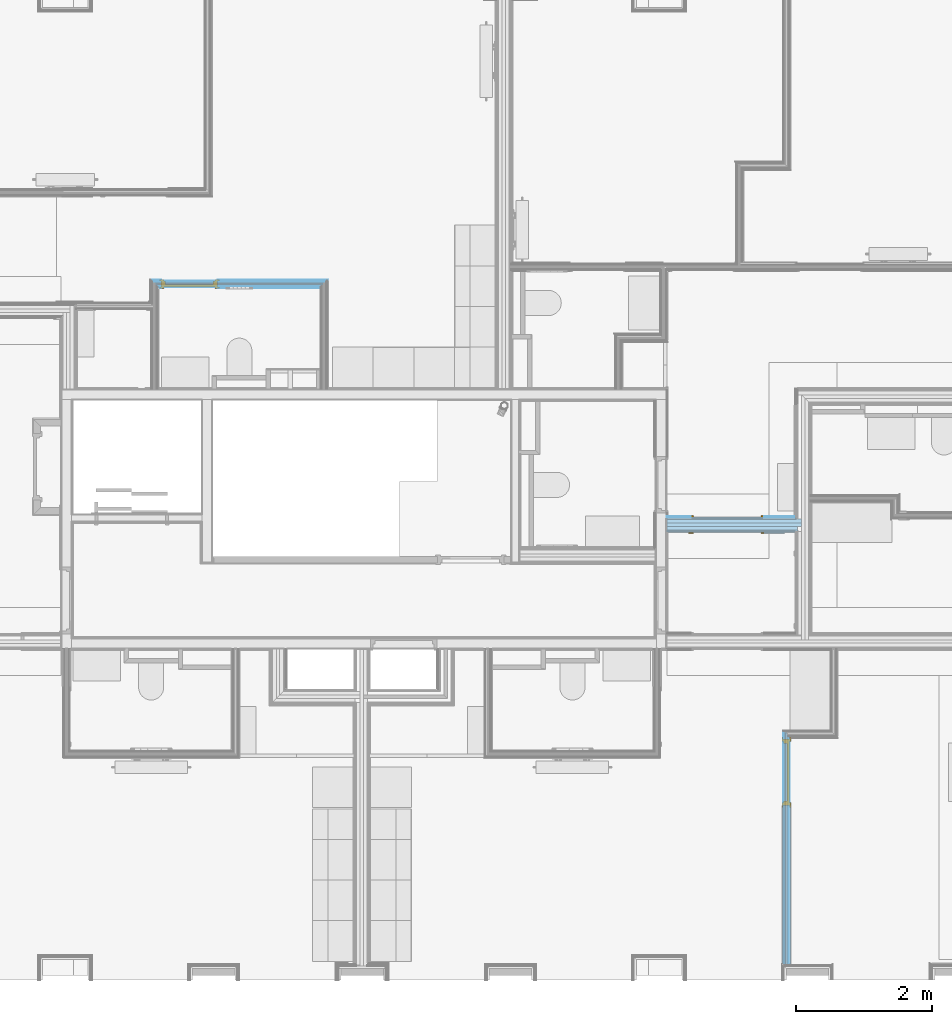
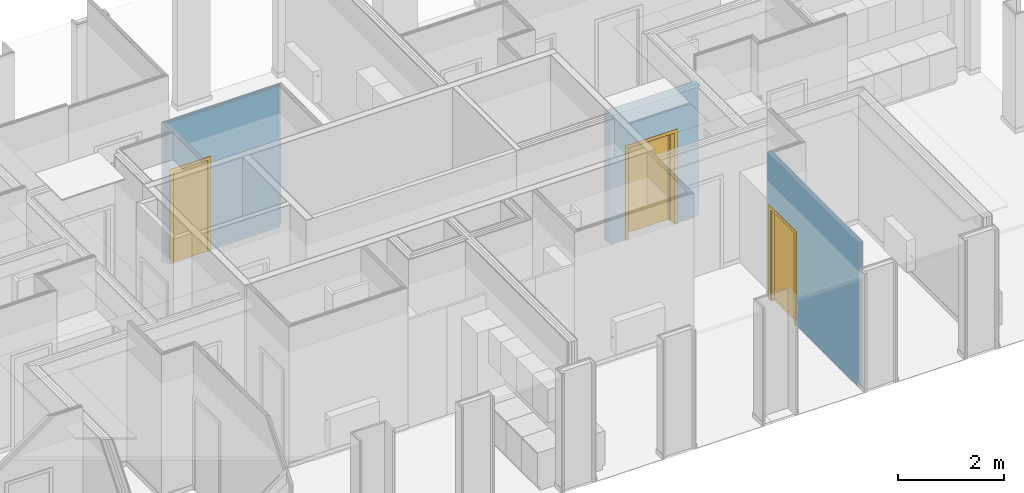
# One storey, part 50 of 64: 3 doors, 4 openings, 3 elements without a shape of their own, plus 23 elements that do not belong to this part.
"""IFC2X3 building model written with IfcOpenShell, lengths in metres."""

from ifc_helpers import new_model, entity, si_unit, converted_unit, derived_unit, money_unit, direction, frame, frame_2d, origin_with_axes, place, context, subcontext, project, spatial, polyline, rectangle, outline, extrude, faceted_brep, material, type_object, element, fill, aggregate, save


model = new_model("IFC2X3")

# Units and contexts
model_context = context("Model", 3, precision=1e-05, world=origin_with_axes(), true_north=direction((0.0, 1.0)))
body_context = subcontext(model_context, "Body", "Model", "MODEL_VIEW", scale=1.0)
ifc_project = project(units=[si_unit("LENGTHUNIT", "METRE"), si_unit("AREAUNIT", "SQUARE_METRE"), si_unit("VOLUMEUNIT", "CUBIC_METRE"), si_unit("ABSORBEDDOSEUNIT", "GRAY"), si_unit("AMOUNTOFSUBSTANCEUNIT", "MOLE"), si_unit("DOSEEQUIVALENTUNIT", "SIEVERT"), si_unit("ELECTRICCAPACITANCEUNIT", "FARAD"), si_unit("ELECTRICCHARGEUNIT", "COULOMB"), si_unit("ELECTRICCONDUCTANCEUNIT", "SIEMENS"), si_unit("ELECTRICCURRENTUNIT", "AMPERE"), si_unit("ELECTRICRESISTANCEUNIT", "OHM"), si_unit("ELECTRICVOLTAGEUNIT", "VOLT"), si_unit("ENERGYUNIT", "JOULE"), si_unit("FORCEUNIT", "NEWTON"), si_unit("FREQUENCYUNIT", "HERTZ"), si_unit("ILLUMINANCEUNIT", "LUX"), si_unit("INDUCTANCEUNIT", "HENRY"), si_unit("LUMINOUSFLUXUNIT", "LUMEN"), si_unit("LUMINOUSINTENSITYUNIT", "CANDELA"), si_unit("MAGNETICFLUXDENSITYUNIT", "TESLA"), si_unit("MAGNETICFLUXUNIT", "WEBER"), si_unit("MASSUNIT", "GRAM"), converted_unit("PLANEANGLEUNIT", "degree", entity("IfcReal", 0.0174532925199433), si_unit("PLANEANGLEUNIT", "RADIAN"), dimensions=[0, 0, 0, 0, 0, 0, 0]), si_unit("POWERUNIT", "WATT"), si_unit("PRESSUREUNIT", "PASCAL"), si_unit("RADIOACTIVITYUNIT", "BECQUEREL"), si_unit("SOLIDANGLEUNIT", "STERADIAN"), si_unit("THERMODYNAMICTEMPERATUREUNIT", "KELVIN"), si_unit("TIMEUNIT", "SECOND"), derived_unit("ACCELERATIONUNIT", [(si_unit("LENGTHUNIT", "METRE"), 1), (si_unit("TIMEUNIT", "SECOND"), -2)]), derived_unit("ANGULARVELOCITYUNIT", [(converted_unit("PLANEANGLEUNIT", "degree", entity("IfcReal", 0.0174532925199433), si_unit("PLANEANGLEUNIT", "RADIAN"), dimensions=[0, 0, 0, 0, 0, 0, 0]), 1), (si_unit("TIMEUNIT", "SECOND"), -1)]), derived_unit("CURVATUREUNIT", [(converted_unit("PLANEANGLEUNIT", "degree", entity("IfcReal", 0.0174532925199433), si_unit("PLANEANGLEUNIT", "RADIAN"), dimensions=[0, 0, 0, 0, 0, 0, 0]), 1), (si_unit("LENGTHUNIT", "METRE"), -1)]), derived_unit("DYNAMICVISCOSITYUNIT", [(si_unit("PRESSUREUNIT", "PASCAL"), 1), (si_unit("TIMEUNIT", "SECOND"), 1)]), derived_unit("HEATFLUXDENSITYUNIT", [(si_unit("POWERUNIT", "WATT"), 1), (si_unit("LENGTHUNIT", "METRE"), -2)]), derived_unit("HEATINGVALUEUNIT", [(si_unit("ENERGYUNIT", "JOULE"), 1), (si_unit("MASSUNIT", "GRAM"), -1)]), derived_unit("INTEGERCOUNTRATEUNIT", [(si_unit("TIMEUNIT", "SECOND"), -1)]), derived_unit("IONCONCENTRATIONUNIT", [(si_unit("MASSUNIT", "GRAM"), 1), (si_unit("VOLUMEUNIT", "CUBIC_METRE"), -1)]), derived_unit("ISOTHERMALMOISTURECAPACITYUNIT", [(si_unit("VOLUMEUNIT", "CUBIC_METRE"), 1), (si_unit("MASSUNIT", "GRAM"), -1)]), derived_unit("KINEMATICVISCOSITYUNIT", [(si_unit("AREAUNIT", "SQUARE_METRE"), 1), (si_unit("TIMEUNIT", "SECOND"), -1)]), derived_unit("LINEARFORCEUNIT", [(si_unit("FORCEUNIT", "NEWTON"), 1), (si_unit("LENGTHUNIT", "METRE"), -1)]), derived_unit("LINEARMOMENTUNIT", [(si_unit("FORCEUNIT", "NEWTON"), 1), (si_unit("LENGTHUNIT", "METRE"), -1)]), derived_unit("LINEARSTIFFNESSUNIT", [(si_unit("FORCEUNIT", "NEWTON"), 1), (si_unit("LENGTHUNIT", "METRE"), -1)]), derived_unit("LINEARVELOCITYUNIT", [(si_unit("LENGTHUNIT", "METRE"), 1), (si_unit("TIMEUNIT", "SECOND"), -1)]), derived_unit("LUMINOUSINTENSITYDISTRIBUTIONUNIT", [(si_unit("LUMINOUSINTENSITYUNIT", "CANDELA"), 1), (si_unit("LUMINOUSFLUXUNIT", "LUMEN"), -1)]), derived_unit("MASSDENSITYUNIT", [(si_unit("MASSUNIT", "GRAM"), 1), (si_unit("VOLUMEUNIT", "CUBIC_METRE"), -1)]), derived_unit("MASSFLOWRATEUNIT", [(si_unit("MASSUNIT", "GRAM"), 1), (si_unit("TIMEUNIT", "SECOND"), -1)]), derived_unit("MASSPERLENGTHUNIT", [(si_unit("MASSUNIT", "GRAM"), 1), (si_unit("LENGTHUNIT", "METRE"), -1)]), derived_unit("MODULUSOFELASTICITYUNIT", [(si_unit("FORCEUNIT", "NEWTON"), 1), (si_unit("AREAUNIT", "SQUARE_METRE"), -1)]), derived_unit("MODULUSOFLINEARSUBGRADEREACTIONUNIT", [(si_unit("FORCEUNIT", "NEWTON"), 1), (si_unit("LENGTHUNIT", "METRE"), -2)]), derived_unit("MODULUSOFROTATIONALSUBGRADEREACTIONUNIT", [(si_unit("FORCEUNIT", "NEWTON"), 1), (si_unit("LENGTHUNIT", "METRE"), 1)]), derived_unit("MODULUSOFSUBGRADEREACTIONUNIT", [(si_unit("FORCEUNIT", "NEWTON"), 1), (si_unit("VOLUMEUNIT", "CUBIC_METRE"), -1)]), derived_unit("MOISTUREDIFFUSIVITYUNIT", [(si_unit("VOLUMEUNIT", "CUBIC_METRE"), 1), (si_unit("TIMEUNIT", "SECOND"), -1)]), derived_unit("MOLECULARWEIGHTUNIT", [(si_unit("MASSUNIT", "GRAM"), 1), (si_unit("AMOUNTOFSUBSTANCEUNIT", "MOLE"), -1)]), derived_unit("PLANARFORCEUNIT", [(si_unit("FORCEUNIT", "NEWTON"), 1), (si_unit("LENGTHUNIT", "METRE"), -2)]), derived_unit("ROTATIONALFREQUENCYUNIT", [(si_unit("TIMEUNIT", "SECOND"), -1)]), derived_unit("ROTATIONALMASSUNIT", [(si_unit("MASSUNIT", "GRAM"), 1), (si_unit("LENGTHUNIT", "METRE"), 2)]), derived_unit("ROTATIONALSTIFFNESSUNIT", [(si_unit("FORCEUNIT", "NEWTON"), 1), (si_unit("LENGTHUNIT", "METRE"), 1), (converted_unit("PLANEANGLEUNIT", "degree", entity("IfcReal", 0.0174532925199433), si_unit("PLANEANGLEUNIT", "RADIAN"), dimensions=[0, 0, 0, 0, 0, 0, 0]), -1)]), derived_unit("SECTIONAREAINTEGRALUNIT", [(si_unit("LENGTHUNIT", "METRE"), 5)]), derived_unit("SECTIONMODULUSUNIT", [(si_unit("LENGTHUNIT", "METRE"), 3)]), derived_unit("SHEARMODULUSUNIT", [(si_unit("FORCEUNIT", "NEWTON"), 1), (si_unit("AREAUNIT", "SQUARE_METRE"), -1)]), derived_unit("SOUNDPOWERUNIT", [(si_unit("ENERGYUNIT", "JOULE"), 1), (si_unit("TIMEUNIT", "SECOND"), -1)]), derived_unit("SPECIFICHEATCAPACITYUNIT", [(si_unit("FORCEUNIT", "NEWTON"), 1), (si_unit("MASSUNIT", "GRAM"), -1), (si_unit("THERMODYNAMICTEMPERATUREUNIT", "KELVIN"), -1)]), derived_unit("TEMPERATUREGRADIENTUNIT", [(si_unit("THERMODYNAMICTEMPERATUREUNIT", "KELVIN"), 1), (si_unit("LENGTHUNIT", "METRE"), -1)]), derived_unit("THERMALADMITTANCEUNIT", [(si_unit("POWERUNIT", "WATT"), 1), (si_unit("AREAUNIT", "SQUARE_METRE"), -1), (si_unit("THERMODYNAMICTEMPERATUREUNIT", "KELVIN"), -1)]), derived_unit("THERMALCONDUCTANCEUNIT", [(si_unit("POWERUNIT", "WATT"), 1), (si_unit("LENGTHUNIT", "METRE"), -1), (si_unit("THERMODYNAMICTEMPERATUREUNIT", "KELVIN"), -1)]), derived_unit("THERMALEXPANSIONCOEFFICIENTUNIT", [(si_unit("THERMODYNAMICTEMPERATUREUNIT", "KELVIN"), -1)]), derived_unit("THERMALRESISTANCEUNIT", [(si_unit("AREAUNIT", "SQUARE_METRE"), 1), (si_unit("POWERUNIT", "WATT"), -1)]), derived_unit("THERMALTRANSMITTANCEUNIT", [(si_unit("POWERUNIT", "WATT"), 1), (si_unit("AREAUNIT", "SQUARE_METRE"), -1), (si_unit("THERMODYNAMICTEMPERATUREUNIT", "KELVIN"), -1)]), derived_unit("TORQUEUNIT", [(si_unit("FORCEUNIT", "NEWTON"), 1), (si_unit("LENGTHUNIT", "METRE"), 1)]), derived_unit("VAPORPERMEABILITYUNIT", [(si_unit("MASSUNIT", "GRAM"), 1), (si_unit("TIMEUNIT", "SECOND"), -1)]), derived_unit("VOLUMETRICFLOWRATEUNIT", [(si_unit("VOLUMEUNIT", "CUBIC_METRE"), 1), (si_unit("TIMEUNIT", "SECOND"), -1)]), derived_unit("WARPINGCONSTANTUNIT", [(si_unit("LENGTHUNIT", "METRE"), 6)]), derived_unit("WARPINGMOMENTUNIT", [(si_unit("FORCEUNIT", "NEWTON"), 1), (si_unit("LENGTHUNIT", "METRE"), 2)]), money_unit("GBP")], contexts=[model_context])

# Site, building, storey, space
site_placement = place(None, origin_with_axes())
site = spatial("IfcSite", under=ifc_project, at=site_placement, Name="Site", CompositionType="ELEMENT")
building_placement = place(site_placement, origin_with_axes())
building = spatial("IfcBuilding", under=site, at=building_placement, Name="Building01", CompositionType="ELEMENT")
storey_placement = place(building_placement, frame((0.0, 0.0, 8.64), z_axis=(0.0, 0.0, 1.0), x_axis=(1.0, 0.0, 0.0)))
storey = spatial("IfcBuildingStorey", under=building, at=storey_placement, Name="2F", CompositionType="ELEMENT", Elevation=8.64)
space_1_placement = place(storey_placement, frame((22.624794, 10.57, 0.017975), z_axis=(0.0, 0.0, 1.0), x_axis=(-1.0, 0.0, 0.0)))
space_1 = spatial("IfcSpace", under=storey, at=space_1_placement, Name="corridor", CompositionType="ELEMENT", InteriorOrExteriorSpace="NOTDEFINED")

# Door
ifc_material_1 = material(Name="A_BSUK_Doors")
door_style_1 = type_object("IfcDoorStyle", Name="A-Doors-SingleFlush", ConstructionType="USERDEFINED", OperationType="SINGLE_SWING_RIGHT", ParameterTakesPrecedence=False, Sizeable=False)
wall_3_placement = place(storey_placement, frame((18.0, 6.793, 0.0), z_axis=(0.0, 0.0, 1.0), x_axis=(1.0, 0.0, 0.0)))
opening_4_placement = place(wall_3_placement, frame((0.353, -0.103, -0.03), z_axis=(0.0, 0.0, 1.0), x_axis=(1.0, 0.0, 0.0)))
door_1_placement = place(opening_4_placement, frame((0.039, 0.24, 0.03), z_axis=(0.0, 0.0, 1.0), x_axis=(1.0, 0.0, 0.0)))
door_1 = element("IfcDoor", 1, at=door_1_placement, inside=space_1, type_object=door_style_1, material=ifc_material_1, Name="2.09", ObjectType="A-Doors-SingleFlush", OverallHeight=2.172, OverallWidth=1.08700000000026, context=body_context, shape_type="Brep", body=[
    faceted_brep([(1.0, -0.244, 0.0), (1.069, -0.244, 0.0), (1.069, -0.244, 2.169), (-0.069, -0.244, 2.169), (-0.069, -0.244, 0.0), (0.0, -0.244, 0.0), (0.0, -0.244, 2.1), (1.0, -0.244, 2.1), (-0.069, -0.225, 0.0), (-0.069, -0.225, 2.169), (1.069, -0.225, 2.169), (1.069, -0.225, 0.0), (1.0, 0.019, 0.0), (1.069, 0.019, 0.0), (1.069, 0.0, 0.0), (1.042, 0.0, 0.0), (1.042, -0.225, 0.0), (1.0, 0.019, 2.1), (0.0, 0.019, 2.1), (0.0, 0.019, 0.0), (-0.069, 0.019, 0.0), (-0.069, 0.019, 2.169), (1.069, 0.019, 2.169), (1.069, 0.0, 2.169), (1.042, -0.225, 2.142), (1.042, 0.0, 2.142), (-0.042, -0.225, 2.142), (-0.042, 0.0, 2.142), (-0.042, -0.225, 0.0), (-0.042, 0.0, 0.0), (-0.069, 0.0, 2.169), (-0.069, 0.0, 0.0)], [[[0, 1, 2, 3, 4, 5, 6, 7]], [[8, 4, 3, 9]], [[10, 2, 1, 11]], [[9, 3, 2, 10]], [[12, 13, 14, 15, 16, 11, 1, 0]], [[7, 17, 12, 0]], [[6, 18, 17, 7]], [[18, 19, 20, 21, 22, 13, 12, 17]], [[5, 19, 18, 6]], [[13, 22, 23, 14]], [[24, 16, 15, 25]], [[26, 24, 25, 27]], [[11, 16, 24, 26, 28, 8, 9, 10]], [[27, 29, 28, 26]], [[25, 15, 14, 23, 30, 31, 29, 27]], [[5, 4, 8, 28, 29, 31, 20, 19]], [[30, 21, 20, 31]], [[23, 22, 21, 30]]]),
    faceted_brep([(0.0, -0.09, 2.1), (0.0, -0.04, 2.1), (0.0, -0.04, 0.0), (0.0, -0.09, 0.0), (0.975, -0.09, 0.0), (1.0, -0.09, 0.0), (1.0, -0.09, 2.1), (0.025, -0.09, 0.0), (0.025, -0.09, 2.075), (0.975, -0.09, 2.075), (0.975, -0.04, 0.0), (1.0, -0.04, 0.0), (1.0, -0.04, 2.1), (0.025, -0.04, 2.075), (0.025, -0.04, 0.0), (0.975, -0.04, 2.075)], [[[0, 1, 2, 3]], [[4, 5, 6, 0, 3, 7, 8, 9]], [[10, 11, 5, 4]], [[6, 12, 1, 0]], [[5, 11, 12, 6]], [[13, 14, 2, 1, 12, 11, 10, 15]], [[7, 14, 13, 8]], [[7, 3, 2, 14]], [[9, 15, 10, 4]], [[8, 13, 15, 9]]]),
    faceted_brep([(1.0, -0.04, 0.0), (1.0, 0.0, 0.0), (1.0, 0.0, 2.1), (1.0, -0.04, 2.1), (0.0, -0.04, 2.1), (0.0, 0.0, 2.1), (0.0, 0.0, 0.0), (0.0, -0.04, 0.0)], [[[0, 1, 2, 3]], [[4, 5, 6, 7]], [[7, 6, 1, 0]], [[3, 4, 7, 0]], [[3, 2, 5, 4]], [[1, 6, 5, 2]]]),
])

# Space
space_2_placement = place(storey_placement, frame((14.85, 4.98, 0.017975), z_axis=(0.0, 0.0, 1.0), x_axis=(0.0, -1.0, 0.0)))
space_2 = spatial("IfcSpace", under=storey, at=space_2_placement, Name="11", CompositionType="ELEMENT", InteriorOrExteriorSpace="NOTDEFINED")

# Door
door_style_2 = type_object("IfcDoorStyle", Name="A-Doors-SingleFlush", ConstructionType="USERDEFINED", OperationType="SINGLE_SWING_LEFT", ParameterTakesPrecedence=False, Sizeable=False)
wall_1_placement = place(storey_placement, frame((19.75, 3.745, 0.0), z_axis=(0.0, 0.0, 1.0), x_axis=(0.0, -1.0, 0.0)))
opening_2_placement = place(wall_1_placement, frame((0.099, -0.05, 0.0), z_axis=(0.0, 0.0, 1.0), x_axis=(1.0, 0.0, 0.0)))
door_2_placement = place(opening_2_placement, frame((0.03, 0.11, 0.0), z_axis=(0.0, 0.0, 1.0), x_axis=(1.0, 0.0, 0.0)))
door_2 = element("IfcDoor", 2, at=door_2_placement, inside=space_2, type_object=door_style_2, material=ifc_material_1, Name="2.14", ObjectType="A-Doors-SingleFlush", OverallHeight=2.15700000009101, OverallWidth=1.56178056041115, context=body_context, shape_type="Brep", body=[
    faceted_brep([(0.0, -0.114, 2.1), (0.9, -0.114, 2.1), (0.9, -0.114, 0.0), (0.969, -0.114, 0.0), (0.969, -0.114, 2.169), (-0.069, -0.114, 2.169), (-0.069, -0.114, 0.0), (0.0, -0.114, 0.0), (0.969, -0.095, 2.169), (0.969, -0.095, 0.0), (-0.069, -0.095, 0.0), (-0.069, -0.095, 2.169), (-0.042, -0.095, 0.0), (-0.042, 0.0, 0.0), (-0.069, 0.0, 0.0), (-0.069, 0.019, 0.0), (0.0, 0.019, 0.0), (0.0, 0.019, 2.1), (0.9, 0.019, 2.1), (-0.069, 0.019, 2.169), (0.969, 0.019, 2.169), (0.969, 0.019, 0.0), (0.9, 0.019, 0.0), (-0.069, 0.0, 2.169), (-0.042, 0.0, 2.142), (-0.042, -0.095, 2.142), (0.942, 0.0, 2.142), (0.942, -0.095, 2.142), (0.942, -0.095, 0.0), (0.942, 0.0, 0.0), (0.969, 0.0, 0.0), (0.969, 0.0, 2.169)], [[[0, 1, 2, 3, 4, 5, 6, 7]], [[8, 4, 3, 9]], [[10, 6, 5, 11]], [[11, 5, 4, 8]], [[7, 6, 10, 12, 13, 14, 15, 16]], [[7, 16, 17, 0]], [[0, 17, 18, 1]], [[17, 16, 15, 19, 20, 21, 22, 18]], [[1, 18, 22, 2]], [[14, 23, 19, 15]], [[24, 13, 12, 25]], [[26, 24, 25, 27]], [[11, 8, 9, 28, 27, 25, 12, 10]], [[27, 28, 29, 26]], [[26, 29, 30, 31, 23, 14, 13, 24]], [[22, 21, 30, 29, 28, 9, 3, 2]], [[30, 21, 20, 31]], [[31, 20, 19, 23]]]),
    faceted_brep([(0.9, -0.09, 0.0), (0.9, -0.04, 0.0), (0.9, -0.04, 2.1), (0.9, -0.09, 2.1), (0.025, -0.09, 2.075), (0.875, -0.09, 2.075), (0.875, -0.09, 0.0), (0.0, -0.09, 2.1), (0.0, -0.09, 0.0), (0.025, -0.09, 0.0), (0.0, -0.04, 0.0), (0.025, -0.04, 0.0), (0.0, -0.04, 2.1), (0.025, -0.04, 2.075), (0.875, -0.04, 0.0), (0.875, -0.04, 2.075)], [[[0, 1, 2, 3]], [[4, 5, 6, 0, 3, 7, 8, 9]], [[9, 8, 10, 11]], [[3, 2, 12, 7]], [[7, 12, 10, 8]], [[13, 11, 10, 12, 2, 1, 14, 15]], [[5, 15, 14, 6]], [[14, 1, 0, 6]], [[9, 11, 13, 4]], [[4, 13, 15, 5]]]),
    faceted_brep([(0.0, -0.04, 2.1), (0.0, 0.0, 2.1), (0.0, 0.0, 0.0), (0.0, -0.04, 0.0), (0.9, -0.04, 0.0), (0.9, 0.0, 0.0), (0.9, 0.0, 2.1), (0.9, -0.04, 2.1)], [[[0, 1, 2, 3]], [[4, 5, 6, 7]], [[3, 2, 5, 4]], [[3, 4, 7, 0]], [[7, 6, 1, 0]], [[1, 6, 5, 2]]]),
])

# Space
space_3_placement = place(storey_placement, frame((7.289669, 14.8, 0.017975), z_axis=(0.0, 0.0, 1.0), x_axis=(0.0, -1.0, 0.0)))
space_3 = spatial("IfcSpace", under=storey, at=space_3_placement, Name="15", CompositionType="ELEMENT", InteriorOrExteriorSpace="NOTDEFINED")

# Door
door_style_3 = type_object("IfcDoorStyle", Name="A-Doors-SingleFlush", ConstructionType="USERDEFINED", OperationType="SINGLE_SWING_RIGHT", ParameterTakesPrecedence=False, Sizeable=False)
wall_2_placement = place(storey_placement, frame((10.453871, 10.355, 0.0), z_axis=(0.0, 0.0, 1.0), x_axis=(1.0, 0.0, 0.0)))
opening_3_placement = place(wall_2_placement, frame((0.086065, -0.05, 0.0), z_axis=(0.0, 0.0, 1.0), x_axis=(1.0, 0.0, 0.0)))
door_3_placement = place(opening_3_placement, frame((0.792, 0.015, 0.0), z_axis=(0.0, 0.0, 1.0), x_axis=(-1.0, 0.0, 0.0)))
door_3 = element("IfcDoor", 3, at=door_3_placement, inside=space_3, type_object=door_style_3, material=ifc_material_1, Name="2.26", ObjectType="A-Doors-SingleFlush", OverallHeight=2.142, OverallWidth=0.834, context=body_context, shape_type="Brep", body=[
    faceted_brep([(0.75, -0.114, 0.0), (0.819, -0.114, 0.0), (0.819, -0.114, 2.169), (-0.069, -0.114, 2.169), (-0.069, -0.114, 0.0), (0.0, -0.114, 0.0), (0.0, -0.114, 2.1), (0.75, -0.114, 2.1), (-0.069, -0.095, 0.0), (-0.069, -0.095, 2.169), (0.819, -0.095, 2.169), (0.819, -0.095, 0.0), (0.75, 0.019, 0.0), (0.819, 0.019, 0.0), (0.819, 0.0, 0.0), (0.792, 0.0, 0.0), (0.792, -0.095, 0.0), (0.75, 0.019, 2.1), (0.0, 0.019, 2.1), (0.0, 0.019, 0.0), (-0.069, 0.019, 0.0), (-0.069, 0.019, 2.169), (0.819, 0.019, 2.169), (0.819, 0.0, 2.169), (0.792, -0.095, 2.142), (0.792, 0.0, 2.142), (-0.042, -0.095, 2.142), (-0.042, 0.0, 2.142), (-0.042, -0.095, 0.0), (-0.042, 0.0, 0.0), (-0.069, 0.0, 2.169), (-0.069, 0.0, 0.0)], [[[0, 1, 2, 3, 4, 5, 6, 7]], [[8, 4, 3, 9]], [[10, 2, 1, 11]], [[9, 3, 2, 10]], [[12, 13, 14, 15, 16, 11, 1, 0]], [[7, 17, 12, 0]], [[6, 18, 17, 7]], [[18, 19, 20, 21, 22, 13, 12, 17]], [[5, 19, 18, 6]], [[13, 22, 23, 14]], [[24, 16, 15, 25]], [[26, 24, 25, 27]], [[11, 16, 24, 26, 28, 8, 9, 10]], [[27, 29, 28, 26]], [[25, 15, 14, 23, 30, 31, 29, 27]], [[5, 4, 8, 28, 29, 31, 20, 19]], [[30, 21, 20, 31]], [[23, 22, 21, 30]]]),
    faceted_brep([(0.0, -0.09, 2.1), (0.0, -0.04, 2.1), (0.0, -0.04, 0.0), (0.0, -0.09, 0.0), (0.725, -0.09, 0.0), (0.75, -0.09, 0.0), (0.75, -0.09, 2.1), (0.025, -0.09, 0.0), (0.025, -0.09, 2.075), (0.725, -0.09, 2.075), (0.725, -0.04, 0.0), (0.75, -0.04, 0.0), (0.75, -0.04, 2.1), (0.025, -0.04, 2.075), (0.025, -0.04, 0.0), (0.725, -0.04, 2.075)], [[[0, 1, 2, 3]], [[4, 5, 6, 0, 3, 7, 8, 9]], [[10, 11, 5, 4]], [[6, 12, 1, 0]], [[5, 11, 12, 6]], [[13, 14, 2, 1, 12, 11, 10, 15]], [[7, 14, 13, 8]], [[7, 3, 2, 14]], [[9, 15, 10, 4]], [[8, 13, 15, 9]]]),
    faceted_brep([(0.75, -0.04, 0.0), (0.75, 0.0, 0.0), (0.75, 0.0, 2.1), (0.75, -0.04, 2.1), (0.0, -0.04, 2.1), (0.0, 0.0, 2.1), (0.0, 0.0, 0.0), (0.0, -0.04, 0.0)], [[[0, 1, 2, 3]], [[4, 5, 6, 7]], [[7, 6, 1, 0]], [[3, 4, 7, 0]], [[3, 2, 5, 4]], [[1, 6, 5, 2]]]),
])

# Wall, openings
wall_type_1 = type_object("IfcWallType", Name="SHE_A-Walls_Type05a_Partition_95mm_tall", PredefinedType="NOTDEFINED")
wall_1 = element("IfcWall", 4, at=wall_1_placement, inside=storey, type_object=wall_type_1, Name="5A", ObjectType="SHE_A-Walls_Type05a_Partition_95mm_tall")
opening_1_placement = place(wall_1_placement, frame((0.087, -0.035, 0.0), z_axis=(0.0, 0.0, 1.0), x_axis=(1.0, 0.0, 0.0)))
element("IfcOpeningElement", 5, at=opening_1_placement, cuts=wall_1, Name="Opening", ObjectType="Recess", context=body_context, shape_type="SweptSolid", body=[
    extrude(rectangle(XDim=2.142, YDim=0.984, at=frame_2d((-0.492, 1.071), x_axis=(0.0, 1.0))), frame((0.0, 0.0, 0.0), z_axis=(0.0, 1.0, 0.0), x_axis=(-1.0, 0.0, 0.0)), (0.0, 0.0, 1.0), 0.035),
])
opening_2 = element("IfcOpeningElement", 6, at=opening_2_placement, cuts=wall_1, Name="Opening", ObjectType="Opening", context=body_context, shape_type="SweptSolid", body=[
    extrude(rectangle(XDim=0.9, YDim=2.127, at=frame_2d((-0.45, 1.0635), x_axis=(-1.0, 0.0))), frame((0.0, 0.0, 0.0), z_axis=(0.0, 1.0, 0.0), x_axis=(-1.0, 0.0, 0.0)), (0.0, 0.0, 1.0), 0.125),
    extrude(rectangle(XDim=0.9, YDim=2.142, at=frame_2d((-0.45, 1.056), x_axis=(-1.0, 0.0))), frame((0.0, 0.015, 0.0), z_axis=(0.0, 1.0, 0.0), x_axis=(-1.0, 0.0, 0.0)), (0.0, 0.0, 1.0), 0.012),
    extrude(rectangle(XDim=2.142, YDim=0.984, at=frame_2d((-0.48, 1.071), x_axis=(0.0, -1.0))), frame((0.0, 0.0, 0.0), z_axis=(0.0, 1.0, 0.0), x_axis=(-1.0, 0.0, 0.0)), (0.0, 0.0, 1.0), 0.015),
    extrude(rectangle(XDim=0.9, YDim=2.142, at=frame_2d((-0.45, 1.056), x_axis=(-1.0, 0.0))), frame((0.0, 0.027, 0.0), z_axis=(0.0, 1.0, 0.0), x_axis=(-1.0, 0.0, 0.0)), (0.0, 0.0, 1.0), 0.023),
    extrude(outline(polyline([(0.012, 2.127), (0.012, 2.142), (-0.972, 2.142), (-0.972, 0.0), (-0.494219, 0.0), (-0.494219, -0.015), (0.589781, -0.015), (0.589781, 2.127), (0.012, 2.127)])), frame((0.0, 0.05, 0.0), z_axis=(0.0, 1.0, 0.0), x_axis=(-1.0, 0.0, 0.0)), (0.0, 0.0, 1.0), 0.025),
    extrude(outline(polyline([(0.012, 2.127), (0.012, 2.142), (-0.972, 2.142), (-0.972, 0.0), (-0.494219, 0.0), (-0.494219, -0.015), (0.589781, -0.015), (0.589781, 2.127), (0.012, 2.127)])), frame((0.0, 0.075, 0.0), z_axis=(0.0, 1.0, 0.0), x_axis=(-1.0, 0.0, 0.0)), (0.0, 0.0, 1.0), 0.023),
    extrude(outline(polyline([(-0.972, 2.142), (-0.972, 0.0), (-0.9, 0.0), (-0.9, -0.015), (0.0, -0.015), (0.0, 0.0), (0.589781, 0.0), (0.589781, 2.142), (-0.972, 2.142)])), frame((0.0, 0.098, 0.0), z_axis=(0.0, 1.0, 0.0), x_axis=(-1.0, 0.0, 0.0)), (0.0, 0.0, 1.0), 0.012),
    extrude(rectangle(XDim=2.142, YDim=0.984, at=frame_2d((-0.48, 1.071), x_axis=(0.0, -1.0))), frame((0.0, 0.11, 0.0), z_axis=(0.0, 1.0, 0.0), x_axis=(-1.0, 0.0, 0.0)), (0.0, 0.0, 1.0), 0.015),
])

fill(opening_2, door_2)

# Building element part
ifc_material_2 = material(Name="A_BSUK_Walls_Timber")
placement_1 = place(wall_1_placement, origin_with_axes())
building_element_part_1 = element("IfcBuildingElementPart", 7, at=placement_1, material=ifc_material_2, Name="1", context=body_context, shape_type="SweptSolid", body=[
    extrude(rectangle(XDim=2.344, YDim=0.015, at=frame_2d((2.24, -0.0425), x_axis=(-1.0, 0.0))), frame((0.0, 0.0, 0.015), z_axis=(0.0, 0.0, 1.0), x_axis=(1.0, 0.0, 0.0)), (0.0, 0.0, 1.0), 0.1),
])

ifc_material_3 = material(Name="A_BSUK_WallInternal_Finishes_Plasterboard")
building_element_part_2 = element("IfcBuildingElementPart", 8, at=placement_1, material=ifc_material_3, Name="2", context=body_context, shape_type="SweptSolid", body=[
    extrude(outline(polyline([(3.427, -0.023), (-0.023, -0.023), (-0.035, -0.035), (3.427, -0.035), (3.427, -0.023)])), origin_with_axes(), (0.0, 0.0, 1.0), 3.32),
])

ifc_material_4 = material(Name="Air Cavity")
building_element_part_3 = element("IfcBuildingElementPart", 9, at=placement_1, material=ifc_material_4, Name="3", context=body_context, shape_type="SweptSolid", body=[
    extrude(outline(polyline([(3.427, 0.0), (0.0, 0.0), (-0.023, -0.023), (3.427, -0.023), (3.427, 0.0)])), origin_with_axes(), (0.0, 0.0, 1.0), 3.32),
])

ifc_material_5 = material(Name="A_BSUK_Insulation")
building_element_part_4 = element("IfcBuildingElementPart", 10, at=placement_1, material=ifc_material_5, Name="4", context=body_context, shape_type="SweptSolid", body=[
    extrude(rectangle(XDim=3.427, YDim=0.025, at=frame_2d((1.7135, 0.0125), x_axis=(-1.0, 0.0))), origin_with_axes(), (0.0, 0.0, 1.0), 3.32),
])

building_element_part_5 = element("IfcBuildingElementPart", 11, at=placement_1, material=ifc_material_4, Name="5", context=body_context, shape_type="SweptSolid", body=[
    extrude(rectangle(XDim=3.427, YDim=0.023, at=frame_2d((1.7135, 0.0365), x_axis=(-1.0, 0.0))), origin_with_axes(), (0.0, 0.0, 1.0), 3.32),
])

building_element_part_6 = element("IfcBuildingElementPart", 12, at=placement_1, material=ifc_material_3, Name="6", context=body_context, shape_type="SweptSolid", body=[
    extrude(outline(polyline([(3.427, 0.06), (0.06, 0.06), (0.048, 0.048), (3.427, 0.048), (3.427, 0.06)])), origin_with_axes(), (0.0, 0.0, 1.0), 3.32),
])

building_element_part_7 = element("IfcBuildingElementPart", 13, at=placement_1, material=ifc_material_2, Name="7", context=body_context, shape_type="SweptSolid", body=[
    extrude(rectangle(XDim=2.344, YDim=0.015, at=frame_2d((2.24, 0.0675), x_axis=(-1.0, 0.0))), frame((0.0, 0.0, 0.015), z_axis=(0.0, 0.0, 1.0), x_axis=(1.0, 0.0, 0.0)), (0.0, 0.0, 1.0), 0.1),
])

aggregate(wall_1, [building_element_part_1, building_element_part_2, building_element_part_3, building_element_part_4, building_element_part_5, building_element_part_6, building_element_part_7])

# Wall, opening
wall_2 = element("IfcWall", 14, at=wall_2_placement, inside=storey, type_object=wall_type_1, Name="5A", ObjectType="SHE_A-Walls_Type05a_Partition_95mm_tall")
opening_3 = element("IfcOpeningElement", 15, at=opening_3_placement, cuts=wall_2, Name="Opening", ObjectType="Opening", context=body_context, shape_type="SweptSolid", body=[
    extrude(rectangle(XDim=0.834, YDim=2.142, at=frame_2d((-0.417, 1.071), x_axis=(1.0, 0.0))), frame((0.0, 0.0, 0.0), z_axis=(0.0, 1.0, 0.0), x_axis=(-1.0, 0.0, 0.0)), (0.0, 0.0, 1.0), 0.125),
])

fill(opening_3, door_3)

# Building element part
placement_2 = place(wall_2_placement, origin_with_axes())
building_element_part_8 = element("IfcBuildingElementPart", 16, at=placement_2, material=ifc_material_2, Name="1", context=body_context, shape_type="SweptSolid", body=[
    extrude(outline(polyline([(2.439714, -0.035), (0.035, -0.035), (0.05, -0.05), (2.424714, -0.05), (2.439714, -0.035)])), frame((0.0, 0.0, 0.015), z_axis=(0.0, 0.0, 1.0), x_axis=(1.0, 0.0, 0.0)), (0.0, 0.0, 1.0), 0.1),
])

building_element_part_9 = element("IfcBuildingElementPart", 17, at=placement_2, material=ifc_material_3, Name="2", context=body_context, shape_type="SweptSolid", body=[
    extrude(outline(polyline([(2.451714, -0.023), (0.023, -0.023), (0.035, -0.035), (2.439714, -0.035), (2.451714, -0.023)])), origin_with_axes(), (0.0, 0.0, 1.0), 3.24),
])

building_element_part_10 = element("IfcBuildingElementPart", 18, at=placement_2, material=ifc_material_4, Name="3", context=body_context, shape_type="SweptSolid", body=[
    extrude(outline(polyline([(2.474714, 0.0), (0.0, 0.0), (0.023, -0.023), (2.451714, -0.023), (2.474714, 0.0)])), origin_with_axes(), (0.0, 0.0, 1.0), 3.24),
])

building_element_part_11 = element("IfcBuildingElementPart", 19, at=placement_2, material=ifc_material_5, Name="4", context=body_context, shape_type="SweptSolid", body=[
    extrude(rectangle(XDim=2.474714, YDim=0.025, at=frame_2d((1.237357, 0.0125), x_axis=(-1.0, 0.0))), origin_with_axes(), (0.0, 0.0, 1.0), 3.24),
])

building_element_part_12 = element("IfcBuildingElementPart", 20, at=placement_2, material=ifc_material_4, Name="5", context=body_context, shape_type="SweptSolid", body=[
    extrude(rectangle(XDim=2.474714, YDim=0.023, at=frame_2d((1.237357, 0.0365), x_axis=(-1.0, 0.0))), origin_with_axes(), (0.0, 0.0, 1.0), 3.24),
])

building_element_part_13 = element("IfcBuildingElementPart", 21, at=placement_2, material=ifc_material_3, Name="6", context=body_context, shape_type="SweptSolid", body=[
    extrude(outline(polyline([(2.534714, 0.06), (-0.06, 0.06), (-0.048, 0.048), (2.522714, 0.048), (2.534714, 0.06)])), origin_with_axes(), (0.0, 0.0, 1.0), 3.24),
])

building_element_part_14 = element("IfcBuildingElementPart", 22, at=placement_2, material=ifc_material_2, Name="7", context=body_context, shape_type="SweptSolid", body=[
    extrude(outline(polyline([(2.549714, 0.075), (-0.075, 0.075), (-0.06, 0.06), (2.534714, 0.06), (2.549714, 0.075)])), frame((0.0, 0.0, 0.015), z_axis=(0.0, 0.0, 1.0), x_axis=(1.0, 0.0, 0.0)), (0.0, 0.0, 1.0), 0.1),
])

aggregate(wall_2, [building_element_part_8, building_element_part_9, building_element_part_10, building_element_part_11, building_element_part_12, building_element_part_13, building_element_part_14])

# Wall, opening
wall_type_2 = type_object("IfcWallType", Name="SHE_A-Walls_Type01c_Partywall_225mm_twin_tall", PredefinedType="NOTDEFINED")
wall_3 = element("IfcWall", 23, at=wall_3_placement, inside=storey, type_object=wall_type_2, Name="1C", ObjectType="SHE_A-Walls_Type01c_Partywall_225mm_twin_tall")
opening_4 = element("IfcOpeningElement", 24, at=opening_4_placement, cuts=wall_3, Name="Opening", ObjectType="Opening", context=body_context, shape_type="SweptSolid", body=[
    extrude(rectangle(XDim=2.142, YDim=1.081, at=frame_2d((-0.5405, 1.071), x_axis=(0.0, -1.0))), frame((0.0, 0.0, 0.0), z_axis=(0.0, 1.0, 0.0), x_axis=(-1.0, 0.0, 0.0)), (0.0, 0.0, 1.0), 0.255),
    extrude(rectangle(XDim=1.084, YDim=2.172, at=frame_2d((-0.539, 1.086), x_axis=(1.0, 0.0))), frame((0.0, 0.015, 0.0), z_axis=(0.0, 1.0, 0.0), x_axis=(-1.0, 0.0, 0.0)), (0.0, 0.0, 1.0), 0.015),
    extrude(rectangle(XDim=2.142, YDim=1.084, at=frame_2d((-0.542, 1.071), x_axis=(0.0, -1.0))), frame((0.0, 0.0, 0.0), z_axis=(0.0, 1.0, 0.0), x_axis=(-1.0, 0.0, 0.0)), (0.0, 0.0, 1.0), 0.015),
    extrude(outline(polyline([(0.0, 0.03), (0.003, 0.03), (0.003, 2.172), (-1.081, 2.172), (-1.081, 2.142), (-1.084, 2.142), (-1.084, 0.0), (0.0, 0.0), (0.0, 0.03)])), frame((0.0, 0.03, 0.0), z_axis=(0.0, 1.0, 0.0), x_axis=(-1.0, 0.0, 0.0)), (0.0, 0.0, 1.0), 0.015),
    extrude(outline(polyline([(0.0, 0.03), (0.003, 0.03), (0.003, 2.172), (-1.081, 2.172), (-1.081, 2.142), (-1.084, 2.142), (-1.084, 0.0), (0.0, 0.0), (0.0, 0.03)])), frame((0.0, 0.045, 0.0), z_axis=(0.0, 1.0, 0.0), x_axis=(-1.0, 0.0, 0.0)), (0.0, 0.0, 1.0), 0.058),
    extrude(outline(polyline([(0.0, 0.03), (0.003, 0.03), (0.003, 2.172), (-1.081, 2.172), (-1.081, 2.142), (-1.084, 2.142), (-1.084, 0.0), (0.0, 0.0), (0.0, 0.03)])), frame((0.0, 0.103, 0.0), z_axis=(0.0, 1.0, 0.0), x_axis=(-1.0, 0.0, 0.0)), (0.0, 0.0, 1.0), 0.05),
    extrude(outline(polyline([(0.0, 0.03), (0.003, 0.03), (0.003, 2.172), (-1.081, 2.172), (-1.081, 2.142), (-1.084, 2.142), (-1.084, 0.0), (0.0, 0.0), (0.0, 0.03)])), frame((0.0, 0.153, 0.0), z_axis=(0.0, 1.0, 0.0), x_axis=(-1.0, 0.0, 0.0)), (0.0, 0.0, 1.0), 0.057),
    extrude(outline(polyline([(0.0, 0.03), (0.003, 0.03), (0.003, 2.172), (-1.081, 2.172), (-1.081, 2.142), (-1.084, 2.142), (-1.084, 0.0), (0.0, 0.0), (0.0, 0.03)])), frame((0.0, 0.21, 0.0), z_axis=(0.0, 1.0, 0.0), x_axis=(-1.0, 0.0, 0.0)), (0.0, 0.0, 1.0), 0.015),
    extrude(rectangle(XDim=1.084, YDim=2.172, at=frame_2d((-0.539, 1.086), x_axis=(1.0, 0.0))), frame((0.0, 0.225, 0.0), z_axis=(0.0, 1.0, 0.0), x_axis=(-1.0, 0.0, 0.0)), (0.0, 0.0, 1.0), 0.015),
    extrude(outline(polyline([(0.0, 0.03), (0.003, 0.03), (0.003, 2.172), (-1.081, 2.172), (-1.081, 2.142), (-1.084, 2.142), (-1.084, 0.0), (0.0, 0.0), (0.0, 0.03)])), frame((0.0, 0.24, 0.0), z_axis=(0.0, 1.0, 0.0), x_axis=(-1.0, 0.0, 0.0)), (0.0, 0.0, 1.0), 0.015),
])

fill(opening_4, door_1)

# Building element part
placement_3 = place(wall_3_placement, origin_with_axes())
building_element_part_15 = element("IfcBuildingElementPart", 25, at=placement_3, material=ifc_material_2, Name="1", context=body_context, shape_type="SweptSolid", body=[
    extrude(rectangle(XDim=0.401969, YDim=0.015, at=frame_2d((1.529984, -0.0955), x_axis=(-1.0, 0.0))), frame((0.0, 0.0, 0.015), z_axis=(0.0, 0.0, 1.0), x_axis=(1.0, 0.0, 0.0)), (0.0, 0.0, 1.0), 0.1),
])

building_element_part_16 = element("IfcBuildingElementPart", 26, at=placement_3, material=ifc_material_3, Name="2", context=body_context, shape_type="SweptSolid", body=[
    extrude(rectangle(XDim=1.897661, YDim=0.015, at=frame_2d((0.948831, -0.0805), x_axis=(-1.0, 0.0))), origin_with_axes(), (0.0, 0.0, 1.0), 2.95),
])

building_element_part_17 = element("IfcBuildingElementPart", 27, at=placement_3, material=ifc_material_3, Name="3", context=body_context, shape_type="SweptSolid", body=[
    extrude(rectangle(XDim=1.927661, YDim=0.015, at=frame_2d((0.963831, -0.0655), x_axis=(-1.0, 0.0))), origin_with_axes(), (0.0, 0.0, 1.0), 2.95),
])

building_element_part_18 = element("IfcBuildingElementPart", 28, at=placement_3, material=ifc_material_4, Name="4", context=body_context, shape_type="SweptSolid", body=[
    extrude(rectangle(XDim=1.927661, YDim=0.058, at=frame_2d((0.963831, -0.029), x_axis=(-1.0, 0.0))), origin_with_axes(), (0.0, 0.0, 1.0), 2.95),
])

building_element_part_19 = element("IfcBuildingElementPart", 29, at=placement_3, material=ifc_material_5, Name="5", context=body_context, shape_type="SweptSolid", body=[
    extrude(rectangle(XDim=1.985661, YDim=0.05, at=frame_2d((0.992831, 0.025), x_axis=(-1.0, 0.0))), origin_with_axes(), (0.0, 0.0, 1.0), 2.95),
])

building_element_part_20 = element("IfcBuildingElementPart", 30, at=placement_3, material=ifc_material_4, Name="6", context=body_context, shape_type="SweptSolid", body=[
    extrude(rectangle(XDim=1.985661, YDim=0.057, at=frame_2d((0.992831, 0.0785), x_axis=(-1.0, 0.0))), origin_with_axes(), (0.0, 0.0, 1.0), 2.95),
])

building_element_part_21 = element("IfcBuildingElementPart", 31, at=placement_3, material=ifc_material_3, Name="7", context=body_context, shape_type="SweptSolid", body=[
    extrude(rectangle(XDim=1.912661, YDim=0.015, at=frame_2d((0.956331, 0.1145), x_axis=(-1.0, 0.0))), origin_with_axes(), (0.0, 0.0, 1.0), 2.95),
])

building_element_part_22 = element("IfcBuildingElementPart", 32, at=placement_3, material=ifc_material_3, Name="8", context=body_context, shape_type="SweptSolid", body=[
    extrude(rectangle(XDim=1.897661, YDim=0.015, at=frame_2d((0.948831, 0.1295), x_axis=(-1.0, 0.0))), origin_with_axes(), (0.0, 0.0, 1.0), 2.95),
])

building_element_part_23 = element("IfcBuildingElementPart", 33, at=placement_3, material=ifc_material_2, Name="9", context=body_context, shape_type="SweptSolid", body=[
    extrude(rectangle(XDim=1.882661, YDim=0.015, at=frame_2d((0.941331, 0.1445), x_axis=(-1.0, 0.0))), frame((0.0, 0.0, 0.015), z_axis=(0.0, 0.0, 1.0), x_axis=(1.0, 0.0, 0.0)), (0.0, 0.0, 1.0), 0.1),
])

aggregate(wall_3, [building_element_part_15, building_element_part_16, building_element_part_17, building_element_part_18, building_element_part_19, building_element_part_20, building_element_part_21, building_element_part_22, building_element_part_23])

save(model, "model.ifc")
